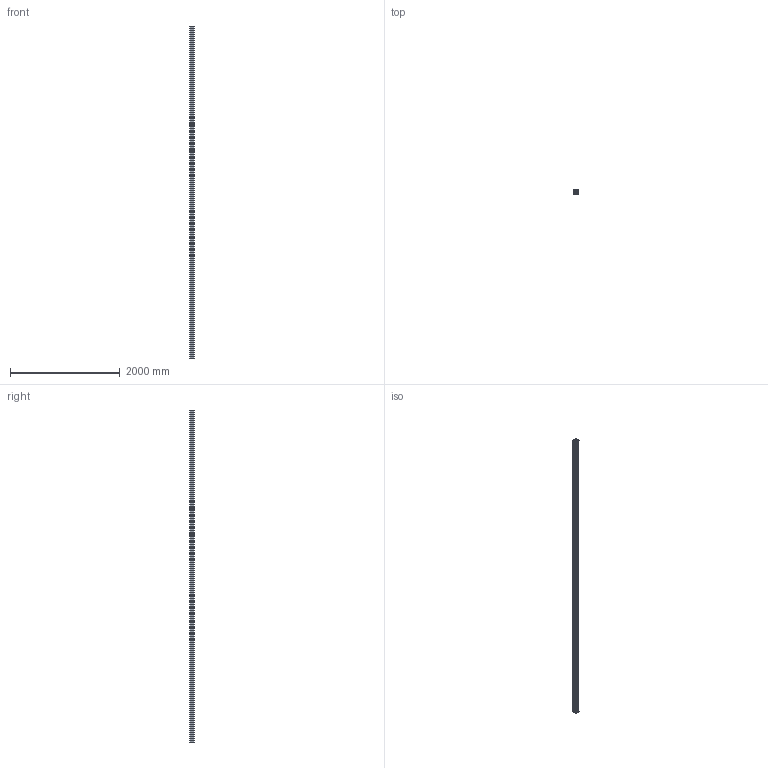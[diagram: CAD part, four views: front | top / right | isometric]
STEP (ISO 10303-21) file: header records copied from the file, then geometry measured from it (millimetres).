
FILE_DESCRIPTION (( 'STEP AP203' ), '1' );
FILE_NAME ('20107730_Profil 80x80L 6N Nut 10.step', '2023-11-27T15:01:19', ( '' ), ( '' ), 'SwSTEP 2.0', 'SolidWorks 2021', '' );
FILE_SCHEMA (( 'CONFIG_CONTROL_DESIGN' ));
Length unit declared in the file: millimetre
Products named in the file (1): 20107730_Profil 80x80L 6N Nut 10
Bounding box: 80 x 80 x 6060 mm (x, y, z)
Volume: 11620692.2 mm3; surface area: 7333394.7 mm2
Topology: 1 solids, 1 shells, 594 faces, 1776 edges, 1184 vertices
Faces by surface type: plane 304, cylinder 290
Entity records: 20261 total; most frequent: CARTESIAN_POINT 3555, ORIENTED_EDGE 3552, DIRECTION 3546, EDGE_CURVE 1776, LINE 1196, VECTOR 1196, VERTEX_POINT 1184, AXIS2_PLACEMENT_3D 1175
